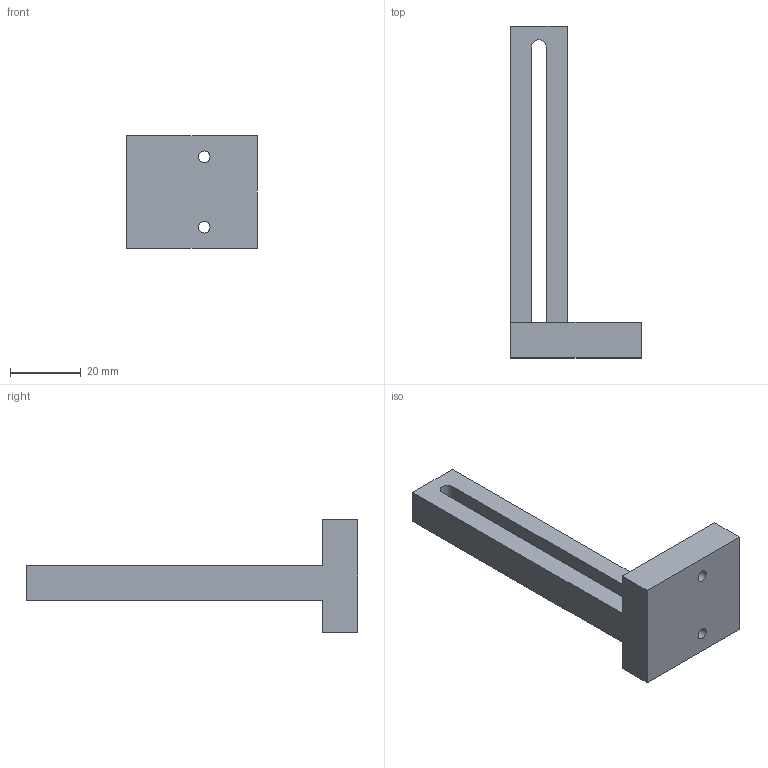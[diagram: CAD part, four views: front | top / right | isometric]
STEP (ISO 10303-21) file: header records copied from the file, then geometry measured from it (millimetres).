
FILE_DESCRIPTION(('Open CASCADE Model'),'2;1');
FILE_NAME('Open CASCADE Shape Model','2026-11-08T07:33:08',('Author'),( 'Open CASCADE'),'Open CASCADE STEP processor 7.8','Open CASCADE 7.8' ,'Unknown');
FILE_SCHEMA(('AUTOMOTIVE_DESIGN { 1 0 10303 214 1 1 1 1 }'));
Length unit declared in the file: millimetre
Products named in the file (1): Open CASCADE STEP translator 7.8 15
Bounding box: 37 x 94 x 32 mm (x, y, z)
Volume: 17636.8 mm3; surface area: 9361.9 mm2
Topology: 1 solids, 1 shells, 22 faces, 66 edges, 44 vertices
Faces by surface type: plane 18, cylinder 4
Full cylindrical faces by diameter (mm): 3.242 x2
Entity records: 1642 total; most frequent: CARTESIAN_POINT 313, DIRECTION 244, LINE 182, VECTOR 182, ORIENTED_EDGE 132, PCURVE 132, DEFINITIONAL_REPRESENTATION 132, EDGE_CURVE 66
